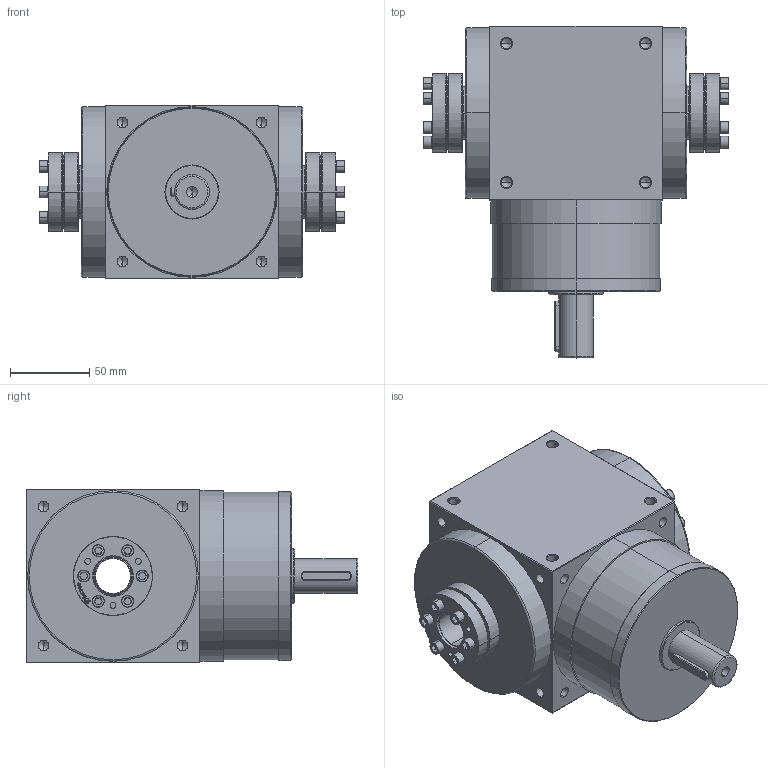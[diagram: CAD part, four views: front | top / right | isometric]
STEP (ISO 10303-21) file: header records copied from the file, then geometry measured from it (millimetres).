
FILE_DESCRIPTION (( 'STEP AP214' ), '1' );
FILE_NAME ('AT110-C-001.STEP', '2020-08-31T00:54:35', ( 'User' ), ( 'Far123' ), 'SwSTEP 2.0', 'SolidWorks 2015', '' );
FILE_SCHEMA (( 'AUTOMOTIVE_DESIGN' ));
Length unit declared in the file: millimetre
Products named in the file (3): 83_24x50; AT110-C-001; AT110-C-L1
Assembly tree (3 placements, depth 2):
  AT110-C-001
    AT110-C-L1
    83_24x50  x2
Bounding box: 193 x 210 x 110 mm (x, y, z)
Volume: 2132415.1 mm3; surface area: 161137.5 mm2
Topology: 21 solids, 21 shells, 1022 faces, 2470 edges, 1487 vertices
Faces by surface type: cylinder 458, plane 262, cone 208, bspline 88, torus 6
Entity records: 21089 total; most frequent: CARTESIAN_POINT 5604, ORIENTED_EDGE 3020, DIRECTION 2966, EDGE_CURVE 1510, AXIS2_PLACEMENT_3D 1135, VERTEX_POINT 925, EDGE_LOOP 731, VECTOR 696
